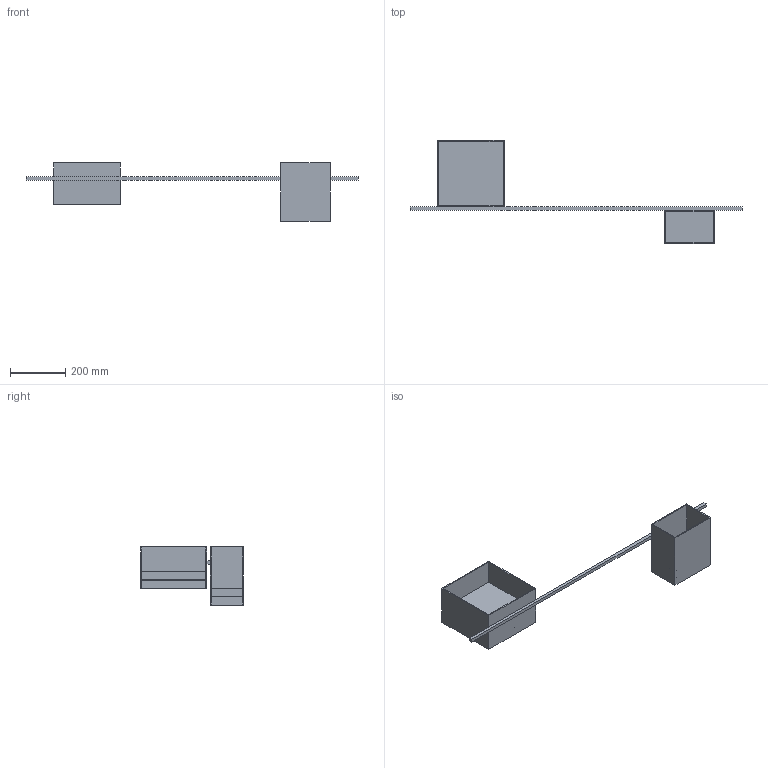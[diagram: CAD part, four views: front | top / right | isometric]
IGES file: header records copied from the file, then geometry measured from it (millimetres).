
Start section: C
Global section: file name: 2640.igs; native system: By Siemens PLM Incorporated; preprocessor: XPlus GENERIC/IGES 19.0.9; author: Author; organization: Title; date: 20180511.133657; units: millimetre
Bounding box: 1200 x 372 x 210 mm (x, y, z)
Surface area: 890876 mm2 (no closed solid volume)
Topology: 0 solids, 0 shells, 50 faces, 216 edges, 216 vertices
Faces by surface type: bspline 50
